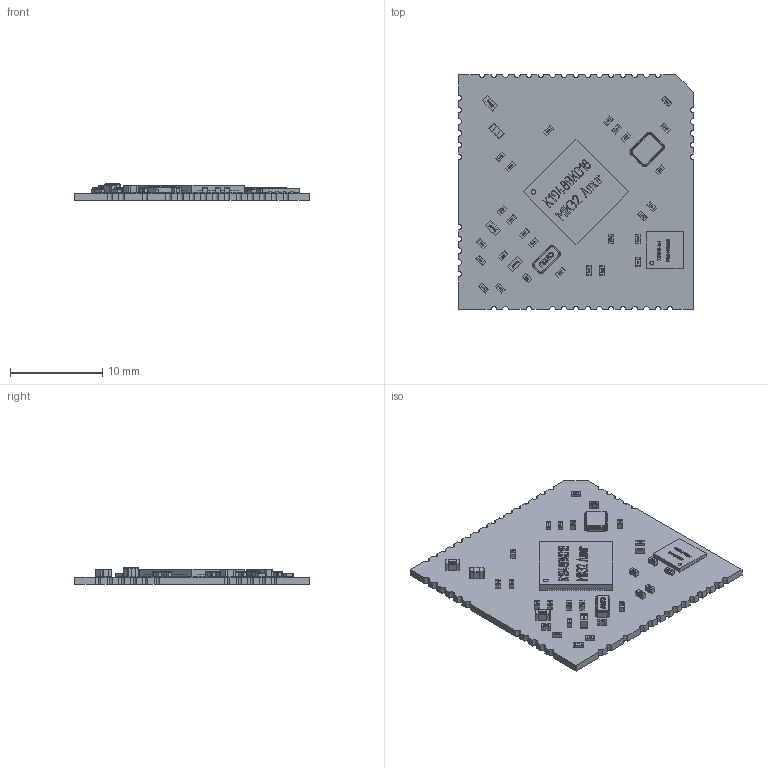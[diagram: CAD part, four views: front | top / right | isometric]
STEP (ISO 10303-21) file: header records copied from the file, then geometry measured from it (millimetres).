
FILE_DESCRIPTION(('Open CASCADE Model'),'2;1');
FILE_NAME('Open CASCADE Shape Model','2024-08-01T18:02:35',('Author'),( 'Open CASCADE'),'Open CASCADE STEP processor 7.5','Open CASCADE 7.5' ,'Unknown');
FILE_SCHEMA(('AUTOMOTIVE_DESIGN { 1 0 10303 214 1 1 1 1 }'));
Length unit declared in the file: millimetre
Products named in the file (57): PCB; Board; Open CASCADE STEP translator 7.5 4.1.1; C3; csmd-0402_l1_w0-5_h0-56; R24; User Library-SMD RESISTOR-10402; L1; User Library-INDC1608X___; C34; C33; C39; C24; DD3; User Library-QFN64_8x8_amur; ZQ1; FC-135; R10; ZQ2; User Library-tsx-3225-1; R40; R7; R19; R25; R23; R28; R2; DD1; User Library-XSON 4x4x0_45-mm2; Cut001; 5D87E2FE-D357-4E80-AF8C-FC3F017DB02C010; 5D87E2FE-D357-4E80-AF8C-FC3F017DB02C001; 5D87E2FE-D357-4E80-AF8C-FC3F017DB02C002; 5D87E2FE-D357-4E80-AF8C-FC3F017DB02C003; 5D87E2FE-D357-4E80-AF8C-FC3F017DB02C004; 5D87E2FE-D357-4E80-AF8C-FC3F017DB02C005; 5D87E2FE-D357-4E80-AF8C-FC3F017DB02C006; 5D87E2FE-D357-4E80-AF8C-FC3F017DB02C007; 5D87E2FE-D357-4E80-AF8C-FC3F017DB02C008; 5D87E2FE-D357-4E80-AF8C-FC3F017DB02C009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
Assembly tree (83 placements, depth 5):
  PCB
    Board
      Open CASCADE STEP translator 7.5 4.1.1
    C3
      csmd-0402_l1_w0-5_h0-56
    R24
      User Library-SMD RESISTOR-10402
    L1
      User Library-INDC1608X___
    C34
      csmd-0402_l1_w0-5_h0-56
    C33
      csmd-0402_l1_w0-5_h0-56
    C39
      csmd-0402_l1_w0-5_h0-56
    C24
      csmd-0402_l1_w0-5_h0-56
    DD3
      User Library-QFN64_8x8_amur
    ZQ1
      FC-135
    R10
      User Library-SMD RESISTOR-10402
    ZQ2
      User Library-tsx-3225-1
    R40
      User Library-SMD RESISTOR-10402
    R7
      User Library-SMD RESISTOR-10402
    R19
      User Library-SMD RESISTOR-10402
    R25
      User Library-SMD RESISTOR-10402
    R23
      User Library-SMD RESISTOR-10402
    R28
      User Library-SMD RESISTOR-10402
    R2
      User Library-SMD RESISTOR-10402
    DD1
      User Library-XSON 4x4x0_45-mm2
        Cut001
        5D87E2FE-D357-4E80-AF8C-FC3F017DB02C010
          5D87E2FE-D357-4E80-AF8C-FC3F017DB02C001
          5D87E2FE-D357-4E80-AF8C-FC3F017DB02C002
          5D87E2FE-D357-4E80-AF8C-FC3F017DB02C003
          5D87E2FE-D357-4E80-AF8C-FC3F017DB02C004
          5D87E2FE-D357-4E80-AF8C-FC3F017DB02C005
          5D87E2FE-D357-4E80-AF8C-FC3F017DB02C006
          5D87E2FE-D357-4E80-AF8C-FC3F017DB02C007
          5D87E2FE-D357-4E80-AF8C-FC3F017DB02C008
          5D87E2FE-D357-4E80-AF8C-FC3F017DB02C009
    C22
      csmd-0402_l1_w0-5_h0-56
    C18
      csmd-0603_l1-6_w0-81_h0-86
    C38
      csmd-0402_l1_w0-5_h0-56
    C16
      csmd-0402_l1_w0-5_h0-56
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Bounding box: 25.4 x 25.4 x 1.77 mm (x, y, z)
Volume: 566.4 mm3; surface area: 1739.5 mm2
Topology: 78 solids, 78 shells, 9266 faces, 24504 edges, 15516 vertices
Faces by surface type: plane 5895, bspline 1489, cylinder 1019, extrusion 503, sphere 336, torus 20, cone 4
Entity records: 105616 total; most frequent: CARTESIAN_POINT 30644, ORIENTED_EDGE 14544, DIRECTION 11209, EDGE_CURVE 7272, VECTOR 5653, LINE 5150, VERTEX_POINT 4756, AXIS2_PLACEMENT_3D 2778
